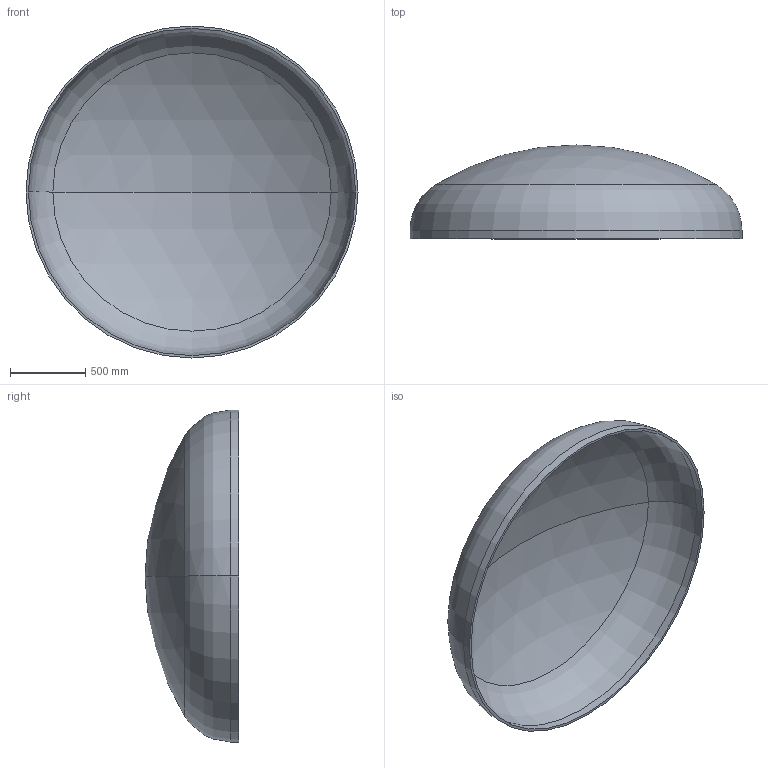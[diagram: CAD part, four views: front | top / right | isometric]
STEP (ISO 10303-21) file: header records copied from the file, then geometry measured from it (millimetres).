
FILE_DESCRIPTION (( 'STEP AP203' ), '1' );
FILE_NAME ('DIN 28013 Korbbogenform_-_Boden DIN 28013 - 2200 x 55 - I - s=16.step', '2016-07-01T14:22:02', ( '' ), ( '' ), 'SwSTEP 2.0', 'SolidWorks 2013', '' );
FILE_SCHEMA (( 'CONFIG_CONTROL_DESIGN' ));
Length unit declared in the file: millimetre
Products named in the file (1): DIN 28013 Korbbogenform_-_Boden DIN 28013 - 2200 x 55 - I - s=16
Bounding box: 2200 x 621.51 x 2200 mm (x, y, z)
Volume: 89526897.6 mm3; surface area: 11301173.9 mm2
Topology: 1 solids, 1 shells, 13 faces, 24 edges, 14 vertices
Faces by surface type: torus 4, cylinder 4, sphere 4, plane 1
Entity records: 407 total; most frequent: DIRECTION 72, CARTESIAN_POINT 52, ORIENTED_EDGE 48, AXIS2_PLACEMENT_3D 34, EDGE_CURVE 24, CIRCLE 20, EDGE_LOOP 14, VERTEX_POINT 14
